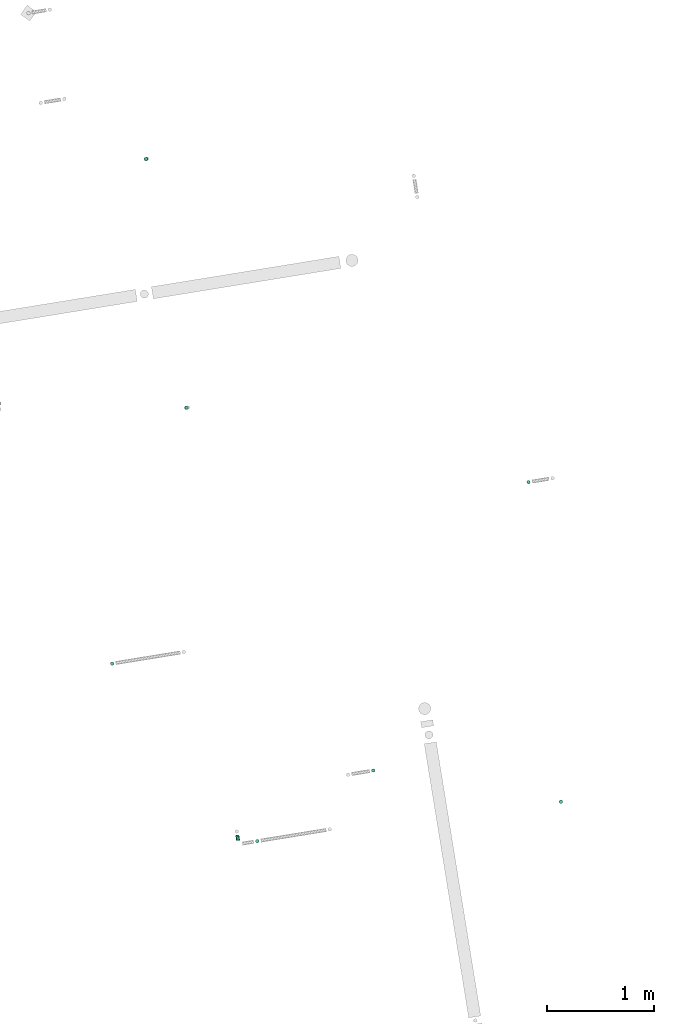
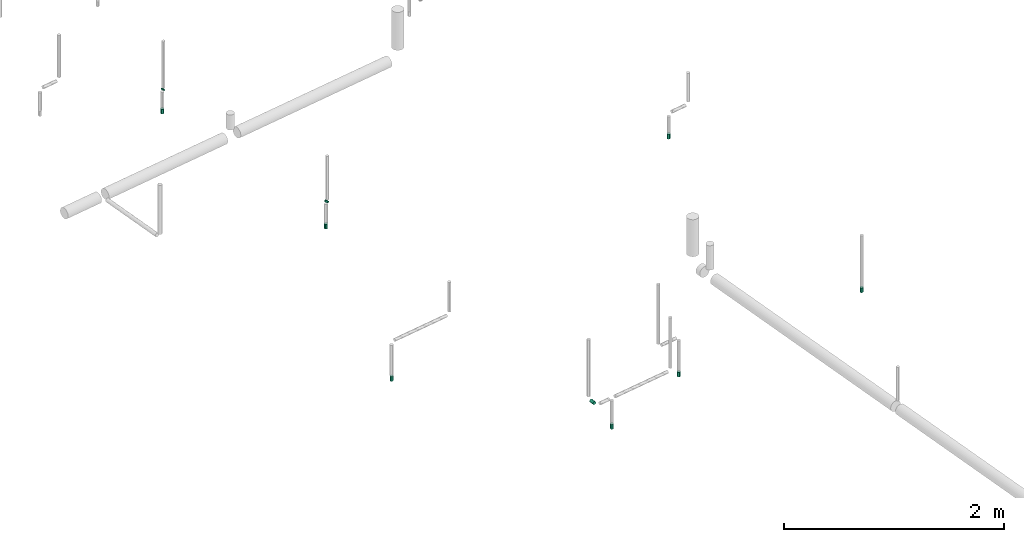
# One storey, part 5 of 8: 7 flow terminals, 3 flow segments.
"""IFC2X3 building model written with IfcOpenShell, lengths in millimetres."""

from ifc_helpers import new_model, entity, si_unit, converted_unit, derived_unit, direction, frame, frame_2d, origin, origin_with_axes, origin_2d_with_axis, place, context, subcontext, project, spatial, circle, extrude, source, transform, mapped, material, type_object, element, save


model = new_model("IFC2X3")

# Units and contexts
plan_context = context("Plan", 3, precision=1e-05, world=origin_with_axes())
model_context = context("Model", 3, precision=0.01, world=origin(), true_north=direction((6.12323399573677e-17, 1.0)))
body_context = subcontext(model_context, "Body", "Model", "MODEL_VIEW")
ifc_project = project(units=[converted_unit("PLANEANGLEUNIT", "DEGREE", entity("IfcPositiveLengthMeasure", 0.0174532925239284), si_unit("PLANEANGLEUNIT", "RADIAN"), dimensions=[0, 0, 0, 0, 0, 0, 0]), si_unit("AREAUNIT", "SQUARE_METRE"), si_unit("LENGTHUNIT", "METRE", prefix="MILLI"), si_unit("MASSUNIT", "GRAM", prefix="KILO"), si_unit("POWERUNIT", "WATT"), si_unit("PRESSUREUNIT", "PASCAL", prefix="KILO"), si_unit("FORCEUNIT", "NEWTON", prefix="KILO"), si_unit("ELECTRICVOLTAGEUNIT", "VOLT"), si_unit("ELECTRICCURRENTUNIT", "AMPERE"), si_unit("THERMODYNAMICTEMPERATUREUNIT", "DEGREE_CELSIUS"), si_unit("TIMEUNIT", "SECOND"), si_unit("VOLUMEUNIT", "CUBIC_METRE"), derived_unit("LINEARVELOCITYUNIT", [(si_unit("LENGTHUNIT", "METRE"), 1), (si_unit("TIMEUNIT", "SECOND"), -1)]), derived_unit("VOLUMETRICFLOWRATEUNIT", [(si_unit("VOLUMEUNIT", "CUBIC_METRE"), 1), (si_unit("TIMEUNIT", "SECOND"), -1)]), derived_unit("THERMALTRANSMITTANCEUNIT", [(si_unit("POWERUNIT", "WATT"), 1), (si_unit("THERMODYNAMICTEMPERATUREUNIT", "KELVIN"), -1), (si_unit("AREAUNIT", "SQUARE_METRE"), -1)]), derived_unit("SOUNDPRESSUREUNIT", [(si_unit("PRESSUREUNIT", "PASCAL"), 1)])], contexts=[model_context, plan_context])

# Site, building, storey
site_placement = place(None, frame((-0.00071070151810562, 0.00438415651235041, 0.0), z_axis=(0.0, 0.0, 1.0), x_axis=(-0.160236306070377, 0.987078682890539, 0.0)))
site = spatial("IfcSite", under=ifc_project, at=site_placement, Name="Default", CompositionType="ELEMENT")
building_placement = place(site_placement, origin_with_axes())
building = spatial("IfcBuilding", under=site, at=building_placement, CompositionType="ELEMENT")
storey_placement = place(building_placement, frame((0.0, 0.0, 58999.9999999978), z_axis=(0.0, 0.0, 1.0), x_axis=(1.0, 0.0, 0.0)))
storey = spatial("IfcBuildingStorey", under=building, at=storey_placement, Name="Nivå F", CompositionType="ELEMENT", Elevation=58999.9999999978)

# Flow terminals
ifc_material = material(Name="<Unnamed>")
fire_suppression_terminal_type = type_object("IfcFireSuppressionTerminalType", Name="UZ003T:Dyse/Spreder - UZ003T", PredefinedType="NOTDEFINED", material=ifc_material)
shared_shape = source(origin(), body_context, "Body", "SweptSolid", [
    extrude(circle(Radius=16.0, at=frame_2d((0.0, -2.58487131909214e-14), x_axis=(1.0, 0.0))), origin(), (0.0, 0.0, 1.0), 53.0),
])
for number, where, z_axis, x_axis in (
    (1, (771988.479652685, -503050.695967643, 2400.0), (0.0, 0.0, -1.0), (0.0, -1.0, 0.0)),
    (2, (776097.619644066, -503043.480498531, 2400.0), (0.0, 0.0, -1.0), (0.0, -1.0, 0.0)),
    (3, (774897.619644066, -506093.480498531, 2700.0), (0.0, 0.0, -1.0), (0.0, -1.0, 0.0)),
    (4, (771897.619644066, -505913.480498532, 2700.0), (0.0, 0.0, -1.0), (1.0, 0.0, 0.0)),
    (5, (773845.62558676, -501976.230498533, 2400.0), (0.0, 0.0, -1.0), (0.0, -1.0, 0.0)),
    (6, (778454.619644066, -503043.480498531, 2400.0), (0.0, 0.0, -1.0), (0.0, -1.0, 0.0)),
    (7, (772466.897012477, -504227.133203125, 2200.0), (0.0, 0.0, -1.0), (0.0, -1.0, 0.0)),
):
    element("IfcFlowTerminal", number, at=place(storey_placement, frame(where, z_axis=z_axis, x_axis=x_axis)), inside=storey, type_object=fire_suppression_terminal_type, material=ifc_material, Name="UZ003T:Dyse/Spreder - UZ003T", ObjectType="UZ003T:Dyse/Spreder - UZ003T", context=body_context, shape_type="MappedRepresentation", body=[
        mapped(shared_shape, transform((0.0, 0.0, 0.0), scale=1.0)),
    ])

# Flow segments
pipe_segment_type = type_object("IfcPipeSegmentType", Name="Pipe Types:Stålrør normaltykke", PredefinedType="NOTDEFINED")
flow_segment_1_placement = place(storey_placement, origin_with_axes())
element("IfcFlowSegment", 8, at=flow_segment_1_placement, inside=storey, type_object=pipe_segment_type, Name="Pipe Types:Stålrør normaltykke", ObjectType="Pipe Types:Stålrør normaltykke", context=body_context, shape_type="SweptSolid", body=[
    extrude(circle(Radius=16.8500004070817, at=origin_2d_with_axis()), frame((778454.619644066, -503051.142268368, 2611.31857463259), z_axis=(0.0, 0.499999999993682, -0.866025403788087), x_axis=(1.0, 0.0, 0.0)), (0.0, 0.0, 1.0), 6.26685696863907),
])
flow_segment_2_placement = place(storey_placement, origin_with_axes())
element("IfcFlowSegment", 9, at=flow_segment_2_placement, inside=storey, type_object=pipe_segment_type, Name="Pipe Types:Stålrør normaltykke", ObjectType="Pipe Types:Stålrør normaltykke", context=body_context, shape_type="SweptSolid", body=[
    extrude(circle(Radius=16.8500004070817, at=frame_2d((0.0, 6.00185883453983e-11), x_axis=(1.0, 0.0))), frame((776097.619644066, -503053.952157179, 2646.18544481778), z_axis=(0.0, 0.499999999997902, -0.86602540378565), x_axis=(1.0, 0.0, 0.0)), (0.0, 0.0, 1.0), 11.886634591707),
])
flow_segment_3_placement = place(storey_placement, origin_with_axes())
element("IfcFlowSegment", 10, at=flow_segment_3_placement, inside=storey, type_object=pipe_segment_type, Name="Pipe Types:Stålrør normaltykke", ObjectType="Pipe Types:Stålrør normaltykke", context=body_context, shape_type="SweptSolid", body=[
    extrude(circle(Radius=16.8500004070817, at=origin_2d_with_axis()), frame((772022.279652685, -502874.909814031, 2686.7), z_axis=(1.0, 0.0, 0.0), x_axis=(0.0, 1.0, 0.0)), (0.0, 0.0, 1.0), 52.3999999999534),
])

save(model, "model.ifc")
